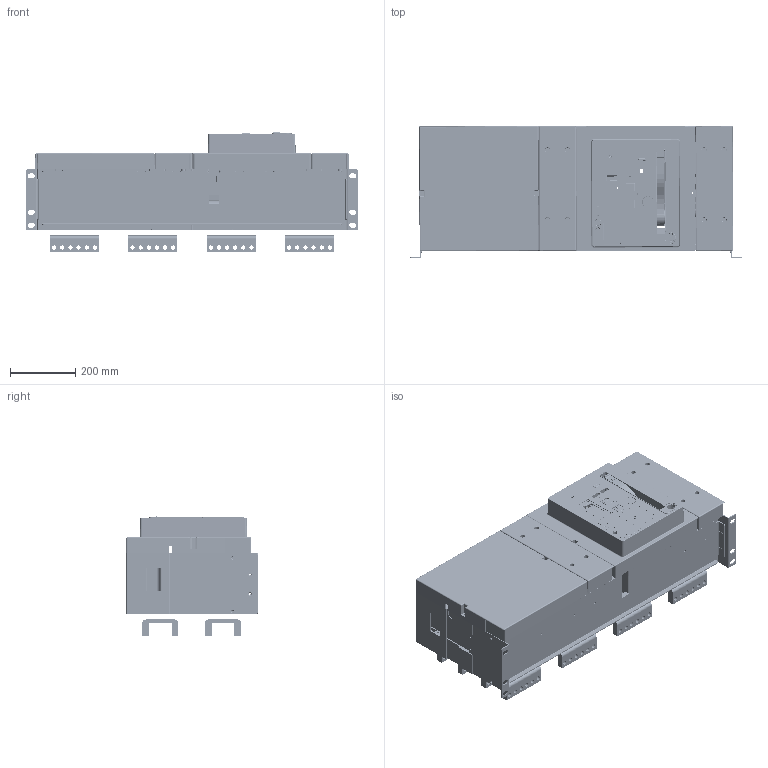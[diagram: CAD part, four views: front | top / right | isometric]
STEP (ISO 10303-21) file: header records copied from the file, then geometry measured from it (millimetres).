
FILE_DESCRIPTION((''),'2;1');
FILE_NAME('HG_25_D404_634_H_FIX_ASM_ASM','2019-03-29T',('HHI'),(''),'PRO/ENGINEER BY PARAMETRIC TECHNOLOGY CORPORATION, 2012453','PRO/ENGINEER BY PARAMETRIC TECHNOLOGY CORPORATION, 2012453','');
FILE_SCHEMA(('CONFIG_CONTROL_DESIGN'));
Products named in the file (30): PRT0204; PRT0205; PRT0207; PRT0208; PRT0209; PRT0210; ASM0060_ASM; PRT0211; PRT0212; PRT0213; ASM0061_ASM; PRT0216; PRT0217; ASM0059_ASM; PRT0218; ASM0058_ASM; PRT0219; SC_MAIN_FRONT_COVER_40N_6; PRT0220; PRT0221; PRT0222; 3AT-04947__1; FIX_BODY_634_ASM_4_ASM; 3AT-05331S01_1; 3AT-05331S02_1; D634_H_FIX_ASM_3_ASM; HG_FRONT_COVER_40; 4AT-06477S03; 4AT-06477S04; HG_25_D404_634_H_FIX_ASM_ASM
Assembly tree (44 placements, depth 7):
  HG_25_D404_634_H_FIX_ASM_ASM
    D634_H_FIX_ASM_3_ASM
      FIX_BODY_634_ASM_4_ASM
        PRT0204  x2
        PRT0205  x2
        ASM0058_ASM
          ASM0059_ASM
            ASM0060_ASM
              PRT0207
              PRT0208
              PRT0209
              PRT0210
            ASM0061_ASM
              PRT0211
              PRT0212
              PRT0213
            PRT0216
            PRT0217
          PRT0218
        PRT0219
        SC_MAIN_FRONT_COVER_40N_6
        PRT0220  x8
        PRT0221
        PRT0222
        3AT-04947__1
      3AT-05331S01_1  x4
      3AT-05331S02_1  x4
    HG_FRONT_COVER_40
    4AT-06477S03
    4AT-06477S04
Bounding box: 1021.4 x 405.68 x 371.63 mm (x, y, z)
Volume: 20653108.4 mm3; surface area: 7154994.9 mm2
Topology: 38 solids, 54 shells, 12545 faces, 34876 edges, 22805 vertices
Faces by surface type: plane 7963, cylinder 3705, torus 313, cone 166, sphere 150, extrusion 141, bspline 107
Entity records: 281071 total; most frequent: CARTESIAN_POINT 56925, ORIENTED_EDGE 47424, DIRECTION 45625, EDGE_CURVE 23736, VECTOR 17225, LINE 17084, VERTEX_POINT 15452, AXIS2_PLACEMENT_3D 14200
